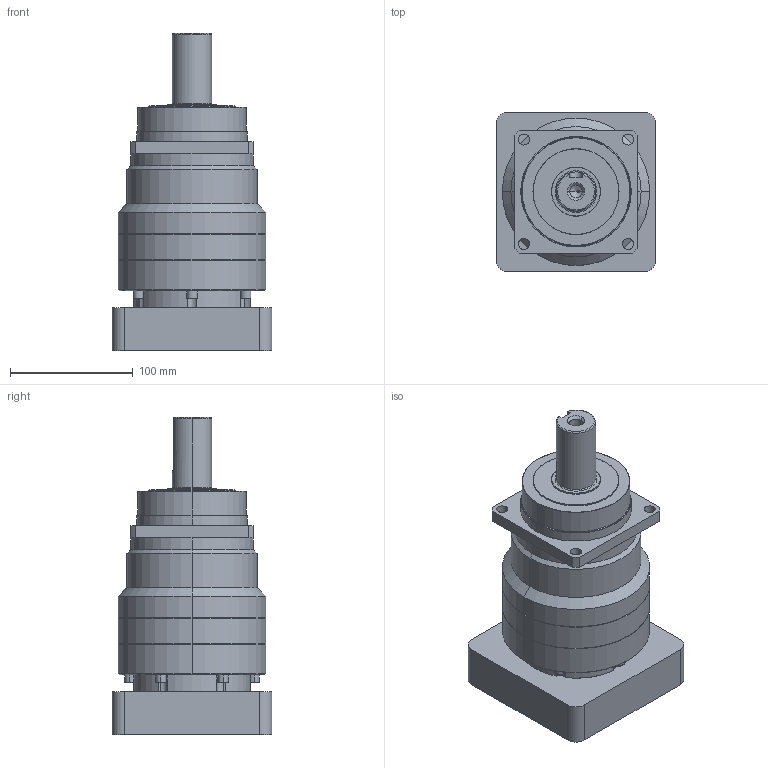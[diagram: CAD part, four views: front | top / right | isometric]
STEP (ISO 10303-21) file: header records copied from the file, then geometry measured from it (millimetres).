
FILE_DESCRIPTION (( 'STEP AP214' ), '1' );
FILE_NAME ('VRS100-L2-S2-P1 24-110-145-M8.STEP', '2023-09-01T01:22:53', ( '微软用户' ), ( '微软中国' ), 'SwSTEP 2.0', 'SolidWorks 2018', '' );
FILE_SCHEMA (( 'AUTOMOTIVE_DESIGN' ));
Length unit declared in the file: millimetre
Products named in the file (1): VRS100-L2-S2-P1 24-110-145-M8
Bounding box: 130 x 130 x 258 mm (x, y, z)
Volume: 1912021.1 mm3; surface area: 151648 mm2
Topology: 1 solids, 1 shells, 209 faces, 486 edges, 304 vertices
Faces by surface type: plane 82, cylinder 81, cone 39, torus 7
Entity records: 6071 total; most frequent: DIRECTION 1099, CARTESIAN_POINT 1087, ORIENTED_EDGE 968, EDGE_CURVE 484, AXIS2_PLACEMENT_3D 420, VERTEX_POINT 304, LINE 259, VECTOR 259
